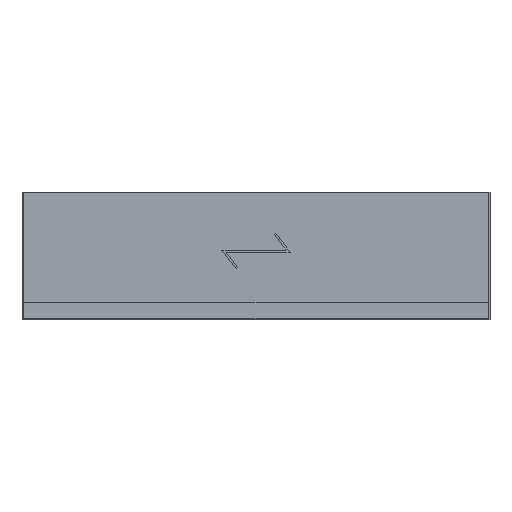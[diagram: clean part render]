
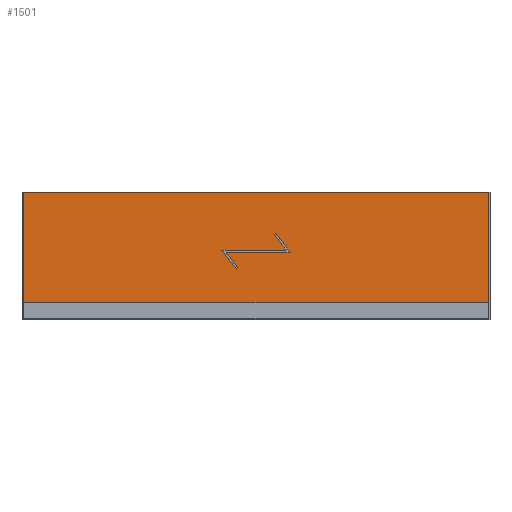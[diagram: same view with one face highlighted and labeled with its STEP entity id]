
A CAD part, top view. The second image highlights one B-rep face of the part: STEP entity #1501.
In plain terms, the highlighted planar face has unit normal (0, 0, 1) as drawn and (0, 1, 0) by its records, which use the part's own axes.
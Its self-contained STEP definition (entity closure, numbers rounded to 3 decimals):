
#49 = CARTESIAN_POINT ( 'NONE',  ( 43., 15., -38.5 ) ) ;
#57 = CARTESIAN_POINT ( 'NONE',  ( -547., 15., -138.5 ) ) ;
#58 = DIRECTION ( 'NONE',  ( -1., 0., 0. ) ) ;
#89 = CARTESIAN_POINT ( 'NONE',  ( 547., 15., 138.5 ) ) ;
#94 = AXIS2_PLACEMENT_3D ( 'NONE', #1506, #1020, #1180 ) ;
#170 = ORIENTED_EDGE ( 'NONE', *, *, #1875, .T. ) ;
#261 = VERTEX_POINT ( 'NONE', #1003 ) ;
#263 = PLANE ( 'NONE',  #94 ) ;
#271 = ORIENTED_EDGE ( 'NONE', *, *, #336, .T. ) ;
#273 = CARTESIAN_POINT ( 'NONE',  ( -547., 15., 138.5 ) ) ;
#281 = ORIENTED_EDGE ( 'NONE', *, *, #1277, .T. ) ;
#283 = FACE_OUTER_BOUND ( 'NONE', #1304, .T. ) ;
#286 = CARTESIAN_POINT ( 'NONE',  ( 47., 15., -41.5 ) ) ;
#318 = VECTOR ( 'NONE', #1198, 1000. ) ;
#329 = DIRECTION ( 'NONE',  ( -0.8, 0., 0.6 ) ) ;
#330 = LINE ( 'NONE', #1835, #1019 ) ;
#336 = EDGE_CURVE ( 'NONE', #379, #2011, #1205, .T. ) ;
#363 = EDGE_CURVE ( 'NONE', #1207, #718, #330, .T. ) ;
#379 = VERTEX_POINT ( 'NONE', #286 ) ;
#395 = CARTESIAN_POINT ( 'NONE',  ( -43., 15., 38.5 ) ) ;
#441 = CARTESIAN_POINT ( 'NONE',  ( 77., 15., -1.5 ) ) ;
#453 = VECTOR ( 'NONE', #545, 1000. ) ;
#456 = VERTEX_POINT ( 'NONE', #49 ) ;
#483 = VECTOR ( 'NONE', #1598, 1000. ) ;
#491 = ORIENTED_EDGE ( 'NONE', *, *, #723, .F. ) ;
#500 = EDGE_CURVE ( 'NONE', #501, #1256, #1576, .T. ) ;
#501 = VERTEX_POINT ( 'NONE', #1139 ) ;
#545 = DIRECTION ( 'NONE',  ( 0., 0., 1. ) ) ;
#550 = VERTEX_POINT ( 'NONE', #1754 ) ;
#556 = CARTESIAN_POINT ( 'NONE',  ( -77., 15., 1.5 ) ) ;
#557 = LINE ( 'NONE', #1062, #1853 ) ;
#561 = CARTESIAN_POINT ( 'NONE',  ( -80., 15., -2.5 ) ) ;
#638 = VERTEX_POINT ( 'NONE', #1817 ) ;
#643 = DIRECTION ( 'NONE',  ( 0.6, 0., 0.8 ) ) ;
#685 = LINE ( 'NONE', #57, #999 ) ;
#718 = VERTEX_POINT ( 'NONE', #395 ) ;
#723 = EDGE_CURVE ( 'NONE', #1256, #261, #1981, .T. ) ;
#725 = DIRECTION ( 'NONE',  ( 0.8, 0., -0.6 ) ) ;
#745 = ORIENTED_EDGE ( 'NONE', *, *, #1718, .T. ) ;
#780 = CARTESIAN_POINT ( 'NONE',  ( -547., 15., 138.5 ) ) ;
#785 = ORIENTED_EDGE ( 'NONE', *, *, #1529, .T. ) ;
#799 = ORIENTED_EDGE ( 'NONE', *, *, #1438, .T. ) ;
#806 = VECTOR ( 'NONE', #1387, 1000. ) ;
#874 = LINE ( 'NONE', #1316, #318 ) ;
#957 = VECTOR ( 'NONE', #1009, 1000. ) ;
#999 = VECTOR ( 'NONE', #1425, 1000. ) ;
#1003 = CARTESIAN_POINT ( 'NONE',  ( -47., 15., 41.5 ) ) ;
#1009 = DIRECTION ( 'NONE',  ( 0.6, 0., 0.8 ) ) ;
#1019 = VECTOR ( 'NONE', #643, 1000. ) ;
#1020 = DIRECTION ( 'NONE',  ( 0., -1., 0. ) ) ;
#1023 = LINE ( 'NONE', #1324, #1417 ) ;
#1052 = CARTESIAN_POINT ( 'NONE',  ( 547., 15., 138.5 ) ) ;
#1062 = CARTESIAN_POINT ( 'NONE',  ( -43., 15., 38.5 ) ) ;
#1103 = EDGE_LOOP ( 'NONE', ( #1960, #491, #1550, #1482, #281, #271, #745, #1879 ) ) ;
#1139 = CARTESIAN_POINT ( 'NONE',  ( 70., 15., -2.5 ) ) ;
#1180 = DIRECTION ( 'NONE',  ( 0., 0., -1. ) ) ;
#1198 = DIRECTION ( 'NONE',  ( 0.6, 0., 0.8 ) ) ;
#1205 = LINE ( 'NONE', #441, #1910 ) ;
#1207 = VERTEX_POINT ( 'NONE', #1345 ) ;
#1221 = LINE ( 'NONE', #780, #806 ) ;
#1256 = VERTEX_POINT ( 'NONE', #561 ) ;
#1277 = EDGE_CURVE ( 'NONE', #456, #379, #1023, .T. ) ;
#1295 = VERTEX_POINT ( 'NONE', #1646 ) ;
#1304 = EDGE_LOOP ( 'NONE', ( #785, #170, #799, #1571 ) ) ;
#1316 = CARTESIAN_POINT ( 'NONE',  ( 73., 15., 1.5 ) ) ;
#1324 = CARTESIAN_POINT ( 'NONE',  ( 43., 15., -38.5 ) ) ;
#1326 = CARTESIAN_POINT ( 'NONE',  ( 80., 15., 2.5 ) ) ;
#1345 = CARTESIAN_POINT ( 'NONE',  ( -70., 15., 2.5 ) ) ;
#1361 = VECTOR ( 'NONE', #1963, 1000. ) ;
#1376 = VERTEX_POINT ( 'NONE', #1052 ) ;
#1387 = DIRECTION ( 'NONE',  ( 1., 0., 0. ) ) ;
#1415 = DIRECTION ( 'NONE',  ( 0.6, 0., 0.8 ) ) ;
#1417 = VECTOR ( 'NONE', #725, 1000. ) ;
#1425 = DIRECTION ( 'NONE',  ( -1., 0., 0. ) ) ;
#1438 = EDGE_CURVE ( 'NONE', #1295, #550, #1948, .T. ) ;
#1475 = LINE ( 'NONE', #89, #1361 ) ;
#1482 = ORIENTED_EDGE ( 'NONE', *, *, #1978, .F. ) ;
#1501 = ADVANCED_FACE ( 'NONE', ( #1662, #283 ), #263, .F. ) ;
#1506 = CARTESIAN_POINT ( 'NONE',  ( 0., 15., 0. ) ) ;
#1529 = EDGE_CURVE ( 'NONE', #1376, #638, #1475, .T. ) ;
#1538 = EDGE_CURVE ( 'NONE', #718, #261, #557, .T. ) ;
#1550 = ORIENTED_EDGE ( 'NONE', *, *, #500, .F. ) ;
#1571 = ORIENTED_EDGE ( 'NONE', *, *, #1680, .T. ) ;
#1576 = LINE ( 'NONE', #1765, #1826 ) ;
#1598 = DIRECTION ( 'NONE',  ( -1., 0., 0. ) ) ;
#1646 = CARTESIAN_POINT ( 'NONE',  ( -547., 15., -138.5 ) ) ;
#1662 = FACE_BOUND ( 'NONE', #1103, .T. ) ;
#1680 = EDGE_CURVE ( 'NONE', #550, #1376, #1221, .T. ) ;
#1718 = EDGE_CURVE ( 'NONE', #2011, #1207, #1895, .T. ) ;
#1752 = CARTESIAN_POINT ( 'NONE',  ( -75., 15., 2.5 ) ) ;
#1754 = CARTESIAN_POINT ( 'NONE',  ( -547., 15., 138.5 ) ) ;
#1765 = CARTESIAN_POINT ( 'NONE',  ( -75., 15., -2.5 ) ) ;
#1817 = CARTESIAN_POINT ( 'NONE',  ( 547., 15., -138.5 ) ) ;
#1826 = VECTOR ( 'NONE', #58, 1000. ) ;
#1835 = CARTESIAN_POINT ( 'NONE',  ( -73., 15., -1.5 ) ) ;
#1853 = VECTOR ( 'NONE', #329, 1000. ) ;
#1875 = EDGE_CURVE ( 'NONE', #638, #1295, #685, .T. ) ;
#1879 = ORIENTED_EDGE ( 'NONE', *, *, #363, .T. ) ;
#1895 = LINE ( 'NONE', #1752, #483 ) ;
#1910 = VECTOR ( 'NONE', #1415, 1000. ) ;
#1948 = LINE ( 'NONE', #273, #453 ) ;
#1960 = ORIENTED_EDGE ( 'NONE', *, *, #1538, .T. ) ;
#1963 = DIRECTION ( 'NONE',  ( 0., 0., -1. ) ) ;
#1978 = EDGE_CURVE ( 'NONE', #456, #501, #874, .T. ) ;
#1981 = LINE ( 'NONE', #556, #957 ) ;
#2011 = VERTEX_POINT ( 'NONE', #1326 ) ;
